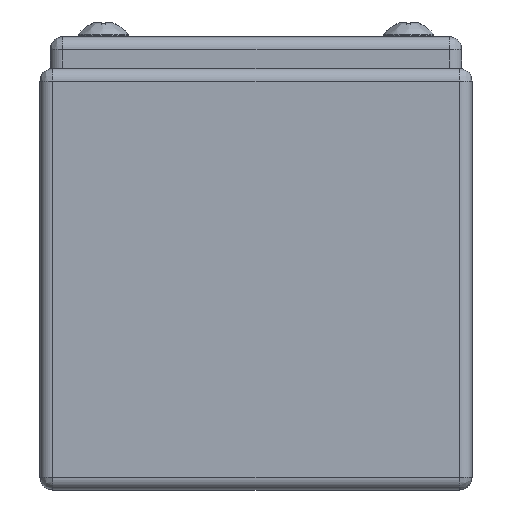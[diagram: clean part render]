
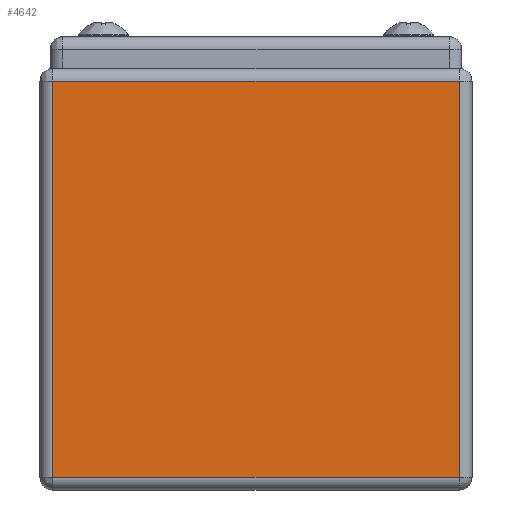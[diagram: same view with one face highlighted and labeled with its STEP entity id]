
A CAD part, front view. The second image highlights one B-rep face of the part: STEP entity #4642.
In plain terms, the highlighted planar face has unit normal (0, -1, 0).
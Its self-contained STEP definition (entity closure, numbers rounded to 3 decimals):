
#125 = CARTESIAN_POINT ( 'NONE',  ( 79.6, 0., 78.8 ) ) ;
#475 = VERTEX_POINT ( 'NONE', #6245 ) ;
#601 = EDGE_CURVE ( 'NONE', #15553, #475, #9940, .T. ) ;
#1005 = CARTESIAN_POINT ( 'NONE',  ( 2.4, 0., 77.6 ) ) ;
#1018 = EDGE_CURVE ( 'NONE', #475, #3099, #16032, .T. ) ;
#3099 = VERTEX_POINT ( 'NONE', #9650 ) ;
#3102 = PLANE ( 'NONE',  #19069 ) ;
#3404 = CARTESIAN_POINT ( 'NONE',  ( 0., 0., 77.6 ) ) ;
#3685 = ORIENTED_EDGE ( 'NONE', *, *, #601, .F. ) ;
#3780 = VECTOR ( 'NONE', #7764, 1000. ) ;
#4642 = ADVANCED_FACE ( 'NONE', ( #15824 ), #3102, .F. ) ;
#5067 = EDGE_CURVE ( 'NONE', #3099, #18986, #7188, .T. ) ;
#5384 = CARTESIAN_POINT ( 'NONE',  ( 0., 0., 78.8 ) ) ;
#5650 = VECTOR ( 'NONE', #19734, 1000. ) ;
#6245 = CARTESIAN_POINT ( 'NONE',  ( 79.6, 0., 77.6 ) ) ;
#6576 = EDGE_CURVE ( 'NONE', #18986, #15553, #7567, .T. ) ;
#7188 = LINE ( 'NONE', #19855, #5650 ) ;
#7567 = LINE ( 'NONE', #14085, #3780 ) ;
#7649 = ORIENTED_EDGE ( 'NONE', *, *, #5067, .F. ) ;
#7764 = DIRECTION ( 'NONE',  ( 0., 0., 1. ) ) ;
#8004 = DIRECTION ( 'NONE',  ( 0., 0., 1. ) ) ;
#9650 = CARTESIAN_POINT ( 'NONE',  ( 79.6, 0., 2.4 ) ) ;
#9940 = LINE ( 'NONE', #3404, #11214 ) ;
#11214 = VECTOR ( 'NONE', #13013, 1000. ) ;
#11595 = DIRECTION ( 'NONE',  ( 0., 1., 0. ) ) ;
#12519 = ORIENTED_EDGE ( 'NONE', *, *, #1018, .F. ) ;
#13013 = DIRECTION ( 'NONE',  ( 1., 0., 0. ) ) ;
#13108 = EDGE_LOOP ( 'NONE', ( #12519, #3685, #17027, #7649 ) ) ;
#14085 = CARTESIAN_POINT ( 'NONE',  ( 2.4, 0., 78.8 ) ) ;
#14221 = CARTESIAN_POINT ( 'NONE',  ( 2.4, 0., 2.4 ) ) ;
#15553 = VERTEX_POINT ( 'NONE', #1005 ) ;
#15824 = FACE_OUTER_BOUND ( 'NONE', #13108, .T. ) ;
#16032 = LINE ( 'NONE', #125, #16819 ) ;
#16819 = VECTOR ( 'NONE', #19761, 1000. ) ;
#17027 = ORIENTED_EDGE ( 'NONE', *, *, #6576, .F. ) ;
#18986 = VERTEX_POINT ( 'NONE', #14221 ) ;
#19069 = AXIS2_PLACEMENT_3D ( 'NONE', #5384, #11595, #8004 ) ;
#19734 = DIRECTION ( 'NONE',  ( -1., 0., 0. ) ) ;
#19761 = DIRECTION ( 'NONE',  ( 0., 0., -1. ) ) ;
#19855 = CARTESIAN_POINT ( 'NONE',  ( 0., 0., 2.4 ) ) ;
